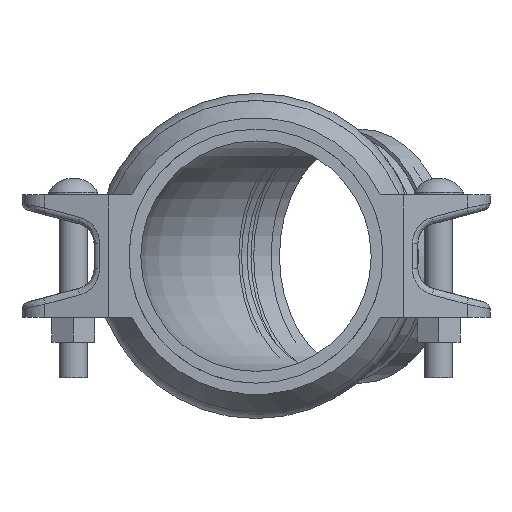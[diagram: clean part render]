
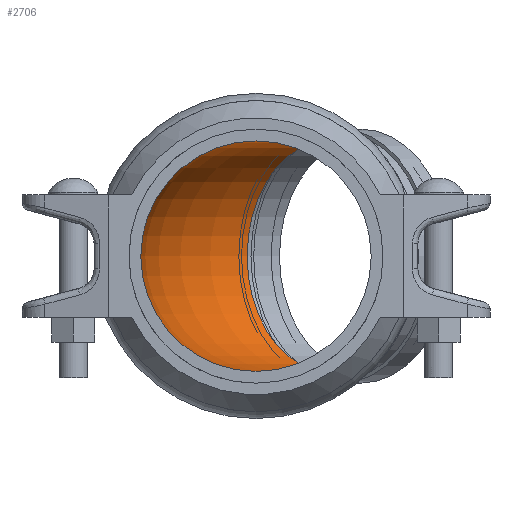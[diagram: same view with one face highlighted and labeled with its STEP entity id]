
A CAD part, left-side view. The second image highlights one B-rep face of the part: STEP entity #2706.
In plain terms, the highlighted toroidal (fillet/blend) face has major radius 137.972 mm and minor radius 64.097 mm.
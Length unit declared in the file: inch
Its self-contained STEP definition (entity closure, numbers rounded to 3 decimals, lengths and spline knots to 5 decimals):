
#126=TOROIDAL_SURFACE('',#2970,5.43198,2.5235);
#571=FACE_OUTER_BOUND('',#726,.T.);
#726=EDGE_LOOP('',(#1724,#1725,#1726,#1727,#1728,#1729));
#907=CIRCLE('',#2971,2.5235);
#908=CIRCLE('',#2972,2.5235);
#909=CIRCLE('',#2973,2.90848);
#910=CIRCLE('',#2974,2.5235);
#911=CIRCLE('',#2975,2.5235);
#1055=VERTEX_POINT('',#4150);
#1056=VERTEX_POINT('',#4151);
#1057=VERTEX_POINT('',#4154);
#1058=VERTEX_POINT('',#4156);
#1321=EDGE_CURVE('',#1055,#1056,#907,.T.);
#1322=EDGE_CURVE('',#1056,#1055,#908,.T.);
#1323=EDGE_CURVE('',#1055,#1057,#909,.T.);
#1324=EDGE_CURVE('',#1057,#1058,#910,.T.);
#1325=EDGE_CURVE('',#1058,#1057,#911,.T.);
#1724=ORIENTED_EDGE('',*,*,#1321,.T.);
#1725=ORIENTED_EDGE('',*,*,#1322,.T.);
#1726=ORIENTED_EDGE('',*,*,#1323,.T.);
#1727=ORIENTED_EDGE('',*,*,#1324,.T.);
#1728=ORIENTED_EDGE('',*,*,#1325,.T.);
#1729=ORIENTED_EDGE('',*,*,#1323,.F.);
#2706=ADVANCED_FACE('',(#571),#126,.F.);
#2970=AXIS2_PLACEMENT_3D('',#4149,#3324,#3325);
#2971=AXIS2_PLACEMENT_3D('',#4152,#3326,#3327);
#2972=AXIS2_PLACEMENT_3D('',#4153,#3328,#3329);
#2973=AXIS2_PLACEMENT_3D('',#4155,#3330,#3331);
#2974=AXIS2_PLACEMENT_3D('',#4157,#3332,#3333);
#2975=AXIS2_PLACEMENT_3D('',#4158,#3334,#3335);
#3324=DIRECTION('center_axis',(0.,0.,-1.));
#3325=DIRECTION('ref_axis',(-1.,0.,0.));
#3326=DIRECTION('center_axis',(0.,-1.,0.));
#3327=DIRECTION('ref_axis',(1.,0.,0.));
#3328=DIRECTION('center_axis',(0.,-1.,0.));
#3329=DIRECTION('ref_axis',(1.,0.,0.));
#3330=DIRECTION('center_axis',(0.,0.,-1.));
#3331=DIRECTION('ref_axis',(-1.,0.,0.));
#3332=DIRECTION('center_axis',(0.707,0.707,0.));
#3333=DIRECTION('ref_axis',(0.707,-0.707,0.));
#3334=DIRECTION('center_axis',(0.707,0.707,0.));
#3335=DIRECTION('ref_axis',(0.707,-0.707,0.));
#4149=CARTESIAN_POINT('Origin',(5.43198,1.,0.));
#4150=CARTESIAN_POINT('',(2.5235,1.,0.));
#4151=CARTESIAN_POINT('',(-2.5235,1.,0.));
#4152=CARTESIAN_POINT('Origin',(0.,1.,0.));
#4153=CARTESIAN_POINT('Origin',(0.,1.,0.));
#4154=CARTESIAN_POINT('',(3.37537,3.05661,0.));
#4155=CARTESIAN_POINT('Origin',(5.43198,1.,0.));
#4156=CARTESIAN_POINT('',(-0.19339,6.62537,0.));
#4157=CARTESIAN_POINT('Origin',(1.59099,4.84099,0.));
#4158=CARTESIAN_POINT('Origin',(1.59099,4.84099,0.));
